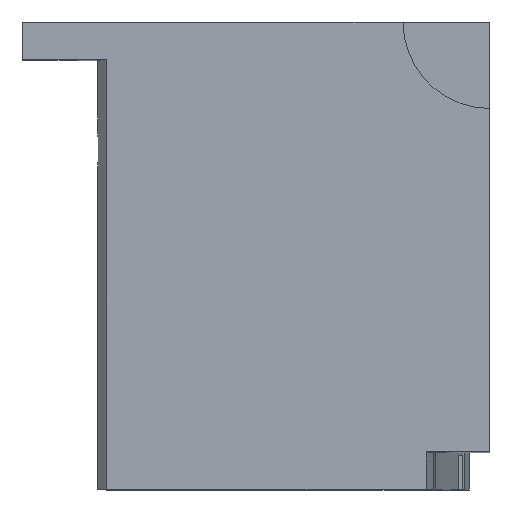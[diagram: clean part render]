
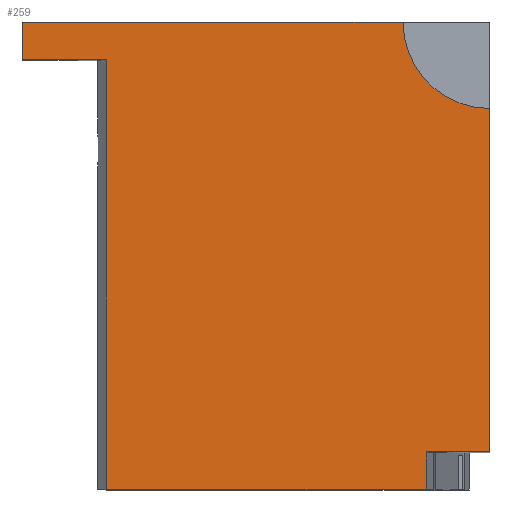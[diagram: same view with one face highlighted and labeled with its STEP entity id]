
A CAD part, top view. The second image highlights one B-rep face of the part: STEP entity #259.
In plain terms, the highlighted planar face has unit normal (0, 0, 1).
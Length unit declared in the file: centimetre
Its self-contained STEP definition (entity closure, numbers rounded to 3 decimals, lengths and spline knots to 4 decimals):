
#6 = VECTOR ( 'NONE', #139, 100. ) ;
#34 = DIRECTION ( 'NONE',  ( 1., 0., 0. ) ) ;
#41 = CARTESIAN_POINT ( 'NONE',  ( 0., 919.1577, 1000. ) ) ;
#46 = AXIS2_PLACEMENT_3D ( 'NONE', #975, #514, #1249 ) ;
#50 = DIRECTION ( 'NONE',  ( -1., 0., 0. ) ) ;
#70 = VECTOR ( 'NONE', #1250, 100. ) ;
#102 = VECTOR ( 'NONE', #50, 100. ) ;
#108 = LINE ( 'NONE', #121, #910 ) ;
#121 = CARTESIAN_POINT ( 'NONE',  ( 180.714, 919.1577, 1000. ) ) ;
#139 = DIRECTION ( 'NONE',  ( 0., -1., 0. ) ) ;
#152 = LINE ( 'NONE', #41, #102 ) ;
#153 = VERTEX_POINT ( 'NONE', #714 ) ;
#176 = PLANE ( 'NONE',  #46 ) ;
#223 = CARTESIAN_POINT ( 'NONE',  ( 180.714, 0., 1000. ) ) ;
#226 = ORIENTED_EDGE ( 'NONE', *, *, #1093, .T. ) ;
#253 = DIRECTION ( 'NONE',  ( 0., -1., 0. ) ) ;
#259 = ADVANCED_FACE ( 'NONE', ( #1397 ), #176, .T. ) ;
#296 = CARTESIAN_POINT ( 'NONE',  ( 0., 919.1577, 1000. ) ) ;
#315 = VECTOR ( 'NONE', #1008, 100. ) ;
#323 = EDGE_CURVE ( 'NONE', #537, #638, #345, .T. ) ;
#345 = LINE ( 'NONE', #1193, #898 ) ;
#384 = LINE ( 'NONE', #1133, #70 ) ;
#392 = VERTEX_POINT ( 'NONE', #531 ) ;
#409 = EDGE_CURVE ( 'NONE', #988, #153, #1297, .T. ) ;
#464 = VECTOR ( 'NONE', #980, 100. ) ;
#470 = ORIENTED_EDGE ( 'NONE', *, *, #1352, .F. ) ;
#514 = DIRECTION ( 'NONE',  ( 0., 0., 1. ) ) ;
#531 = CARTESIAN_POINT ( 'NONE',  ( 864.0945, 79.6728, 1000. ) ) ;
#537 = VERTEX_POINT ( 'NONE', #912 ) ;
#547 = ORIENTED_EDGE ( 'NONE', *, *, #323, .T. ) ;
#578 = CARTESIAN_POINT ( 'NONE',  ( 864.0945, 0., 1000. ) ) ;
#621 = EDGE_CURVE ( 'NONE', #153, #769, #672, .T. ) ;
#622 = ORIENTED_EDGE ( 'NONE', *, *, #1286, .T. ) ;
#638 = VERTEX_POINT ( 'NONE', #995 ) ;
#653 = EDGE_LOOP ( 'NONE', ( #1156, #881, #547, #470, #1313, #1129, #694, #226, #622 ) ) ;
#666 = CARTESIAN_POINT ( 'NONE',  ( 1000., 1000., 1000. ) ) ;
#672 = LINE ( 'NONE', #1237, #1374 ) ;
#694 = ORIENTED_EDGE ( 'NONE', *, *, #1322, .F. ) ;
#696 = EDGE_CURVE ( 'NONE', #537, #392, #384, .T. ) ;
#714 = CARTESIAN_POINT ( 'NONE',  ( 0., 1000., 1000. ) ) ;
#769 = VERTEX_POINT ( 'NONE', #296 ) ;
#798 = LINE ( 'NONE', #1333, #6 ) ;
#881 = ORIENTED_EDGE ( 'NONE', *, *, #696, .F. ) ;
#898 = VECTOR ( 'NONE', #1201, 100. ) ;
#910 = VECTOR ( 'NONE', #1061, 100. ) ;
#912 = CARTESIAN_POINT ( 'NONE',  ( 1000., 79.6728, 1000. ) ) ;
#914 = LINE ( 'NONE', #1356, #315 ) ;
#936 = VERTEX_POINT ( 'NONE', #1054 ) ;
#975 = CARTESIAN_POINT ( 'NONE',  ( 0., 0., 1000. ) ) ;
#980 = DIRECTION ( 'NONE',  ( -1., 0., 0. ) ) ;
#988 = VERTEX_POINT ( 'NONE', #1135 ) ;
#995 = CARTESIAN_POINT ( 'NONE',  ( 1000., 814.8376, 1000. ) ) ;
#1008 = DIRECTION ( 'NONE',  ( 1., 0., 0. ) ) ;
#1054 = CARTESIAN_POINT ( 'NONE',  ( 180.714, 919.1577, 1000. ) ) ;
#1061 = DIRECTION ( 'NONE',  ( 0., -1., 0. ) ) ;
#1084 = CIRCLE ( 'NONE', #1387, 185.1624 ) ;
#1093 = EDGE_CURVE ( 'NONE', #936, #1137, #108, .T. ) ;
#1100 = DIRECTION ( 'NONE',  ( 0., 0., 1. ) ) ;
#1129 = ORIENTED_EDGE ( 'NONE', *, *, #621, .T. ) ;
#1133 = CARTESIAN_POINT ( 'NONE',  ( 1000., 79.6728, 1000. ) ) ;
#1135 = CARTESIAN_POINT ( 'NONE',  ( 814.8376, 1000., 1000. ) ) ;
#1137 = VERTEX_POINT ( 'NONE', #223 ) ;
#1156 = ORIENTED_EDGE ( 'NONE', *, *, #1302, .F. ) ;
#1193 = CARTESIAN_POINT ( 'NONE',  ( 1000., 1000., 1000. ) ) ;
#1201 = DIRECTION ( 'NONE',  ( 0., 1., 0. ) ) ;
#1237 = CARTESIAN_POINT ( 'NONE',  ( 0., 1000., 1000. ) ) ;
#1249 = DIRECTION ( 'NONE',  ( 1., 0., 0. ) ) ;
#1250 = DIRECTION ( 'NONE',  ( -1., 0., 0. ) ) ;
#1286 = EDGE_CURVE ( 'NONE', #1137, #1321, #914, .T. ) ;
#1297 = LINE ( 'NONE', #1390, #464 ) ;
#1302 = EDGE_CURVE ( 'NONE', #392, #1321, #798, .T. ) ;
#1313 = ORIENTED_EDGE ( 'NONE', *, *, #409, .T. ) ;
#1321 = VERTEX_POINT ( 'NONE', #578 ) ;
#1322 = EDGE_CURVE ( 'NONE', #936, #769, #152, .T. ) ;
#1333 = CARTESIAN_POINT ( 'NONE',  ( 864.0945, 79.6728, 1000. ) ) ;
#1352 = EDGE_CURVE ( 'NONE', #988, #638, #1084, .T. ) ;
#1356 = CARTESIAN_POINT ( 'NONE',  ( 0., 0., 1000. ) ) ;
#1374 = VECTOR ( 'NONE', #253, 100. ) ;
#1387 = AXIS2_PLACEMENT_3D ( 'NONE', #666, #1100, #34 ) ;
#1390 = CARTESIAN_POINT ( 'NONE',  ( 0., 1000., 1000. ) ) ;
#1397 = FACE_OUTER_BOUND ( 'NONE', #653, .T. ) ;
